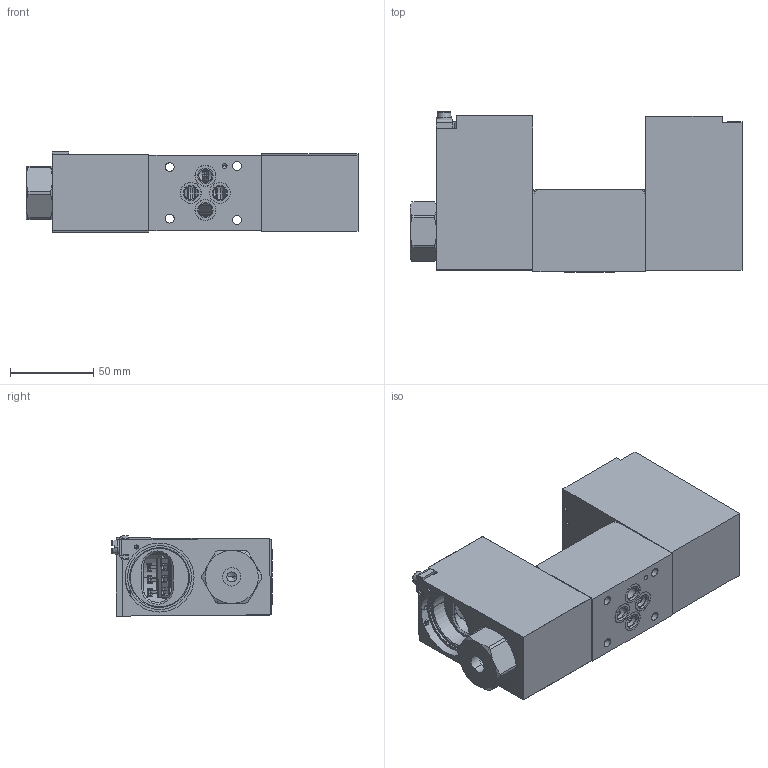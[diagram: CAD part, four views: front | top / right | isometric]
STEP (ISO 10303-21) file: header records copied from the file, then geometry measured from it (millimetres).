
FILE_DESCRIPTION((''),'2;1');
FILE_NAME('RPEX_NOVA_ASM_ASM','2023-10-03T',('l.soukupova'),(''),'PRO/ENGINEER BY PARAMETRIC TECHNOLOGY CORPORATION, 2015440','PRO/ENGINEER BY PARAMETRIC TECHNOLOGY CORPORATION, 2015440','');
FILE_SCHEMA(('AUTOMOTIVE_DESIGN { 1 0 10303 214 1 1 1 1 }'));
Products named in the file (27): NG6_B_22299401_1; PRT0009_1; ASM0003_ASM_1_ASM; ASM0002_ASM_1_ASM; ASM0005_ASM_1_ASM; ASM0004_ASM_1_ASM; ASM0007_ASM_1_ASM; ASM0006_ASM_1_ASM; PRT0001; RPEX_NOVA_ASM_1_ASM; 0002710-2-SOLID1; 0002710-3-SOLID1; 0000980-1-SOLID1; 0003649-1-SOLID1; 0000882-1-SOLID1; 0003186-1_0002485-1-SOLID1; 0003186-1_0002629-1-SOLID1; AUFSATZ-LINEAR_AUSTRAGEN1; ASM0001_ASM; EX18-001-D-1-A-012-0_ASM; 223028; 0002632; 0003195; 0003194; 0003196_C_0_ASM; 0003196_ASM; RPEX_NOVA_ASM_ASM
Assembly tree (33 placements, depth 5):
  RPEX_NOVA_ASM_ASM
    RPEX_NOVA_ASM_1_ASM
      NG6_B_22299401_1
      ASM0002_ASM_1_ASM  x2
        ASM0003_ASM_1_ASM
          PRT0009_1
      ASM0004_ASM_1_ASM  x3
        ASM0005_ASM_1_ASM
      ASM0006_ASM_1_ASM  x2
        ASM0007_ASM_1_ASM
      PRT0001  x4
    EX18-001-D-1-A-012-0_ASM
      ASM0001_ASM
        0002710-2-SOLID1
        0002710-3-SOLID1
        0000980-1-SOLID1
        0003649-1-SOLID1
        0000882-1-SOLID1
        0003186-1_0002485-1-SOLID1
        0003186-1_0002629-1-SOLID1
        AUFSATZ-LINEAR_AUSTRAGEN1
    223028
    0003196_ASM
      0003196_C_0_ASM
        0002632
        0003195
        0003194
Bounding box: 199.85 x 96.47 x 48.31 mm (x, y, z)
Volume: 645312.7 mm3; surface area: 153954.8 mm2
Topology: 19 solids, 22 shells, 1683 faces, 4837 edges, 3476 vertices
Faces by surface type: plane 798, cylinder 539, cone 118, torus 116, bspline 86, sphere 26
Entity records: 72645 total; most frequent: CARTESIAN_POINT 18371, DIRECTION 7862, ORIENTED_EDGE 7418, PRESENTATION_STYLE_ASSIGNMENT 4621, STYLED_ITEM 3938, CURVE_STYLE 3914, EDGE_CURVE 3715, AXIS2_PLACEMENT_3D 2957
